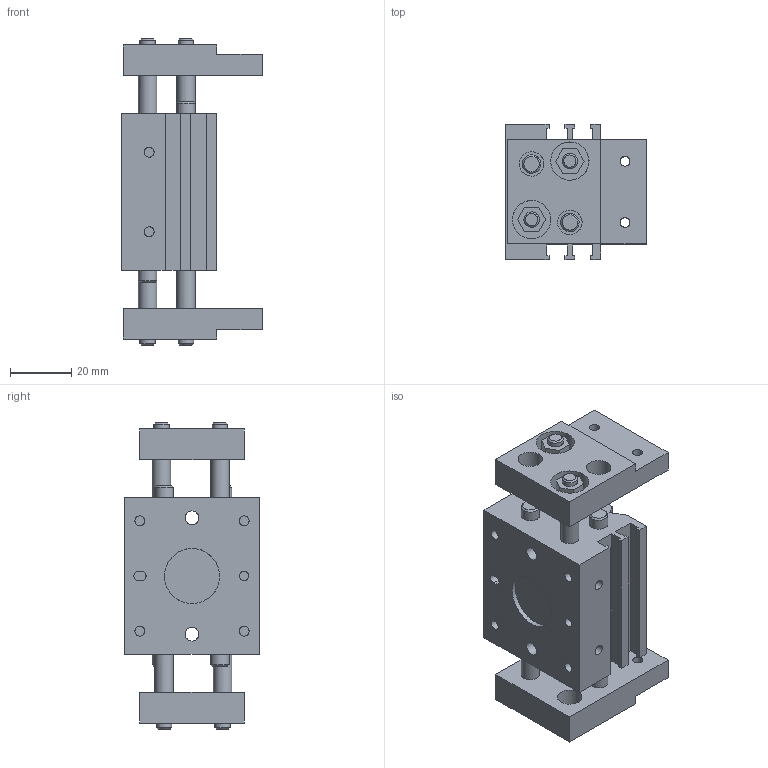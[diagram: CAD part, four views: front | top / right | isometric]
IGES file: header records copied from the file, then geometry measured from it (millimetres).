
Global section: file name: 631110D; native system: Autodesk Inventor 2019; preprocessor: unknown; author: M.Valota; organization: Pneumax S.p.A.; date: 20190124.145255; units: millimetre
Bounding box: 46 x 44 x 100 mm (x, y, z)
Volume: 86183.7 mm3; surface area: 34927.4 mm2
Topology: 3 solids, 3 shells, 159 faces, 404 edges, 278 vertices
Faces by surface type: bspline 159
